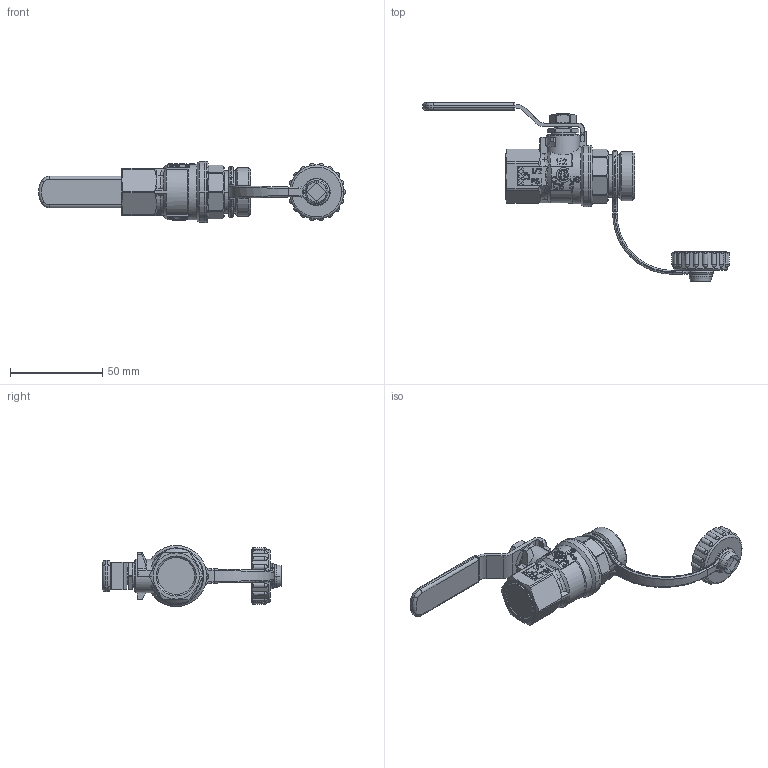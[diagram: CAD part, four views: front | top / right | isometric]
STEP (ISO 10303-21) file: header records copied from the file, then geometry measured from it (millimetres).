
FILE_DESCRIPTION((''),'2;1');
FILE_NAME('T100HG_1-2_ASM','2021-05-05T16:04:28',('alessio.piazza'),(''),'CREO PARAMETRIC BY PTC INC, 2020281','CREO PARAMETRIC BY PTC INC, 2020281','');
FILE_SCHEMA(('CONFIG_CONTROL_DESIGN'));
Products named in the file (17): 11016; SEDE_PTFE_F15; 09095; 09100; 87191; AN_PTFE_SF_15_AF1; OR_105_6_5X1_45_AF2; OR_105_6_5X1_45_AF3; 21092; 87159; GRIP_PVC_75; LEVA_75MM_GIALLA_ASM; 01034; 06085_CURVATO; 03016; 00206; T100HG_1-2_ASM
Assembly tree (17 placements, depth 3):
  T100HG_1-2_ASM
    11016
    SEDE_PTFE_F15  x2
    09095
    09100
    87191
    AN_PTFE_SF_15_AF1
    OR_105_6_5X1_45_AF2
    OR_105_6_5X1_45_AF3
    21092
    LEVA_75MM_GIALLA_ASM
      87159
      GRIP_PVC_75
    01034
    06085_CURVATO
    03016
    00206
Bounding box: 166.01 x 96.5 x 33 mm (x, y, z)
Volume: 38485.6 mm3; surface area: 38744.4 mm2
Topology: 16 solids, 22 shells, 1906 faces, 5148 edges, 3351 vertices
Faces by surface type: plane 1154, extrusion 243, cylinder 199, cone 128, bspline 89, torus 57, sphere 20, revolution 16
Entity records: 67392 total; most frequent: CARTESIAN_POINT 21723, ORIENTED_EDGE 10212, DIRECTION 7890, EDGE_CURVE 5118, VECTOR 3356, VERTEX_POINT 3335, LINE 3113, AXIS2_PLACEMENT_3D 2259
